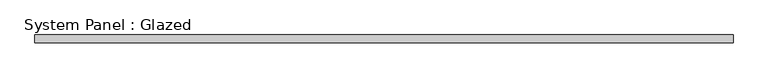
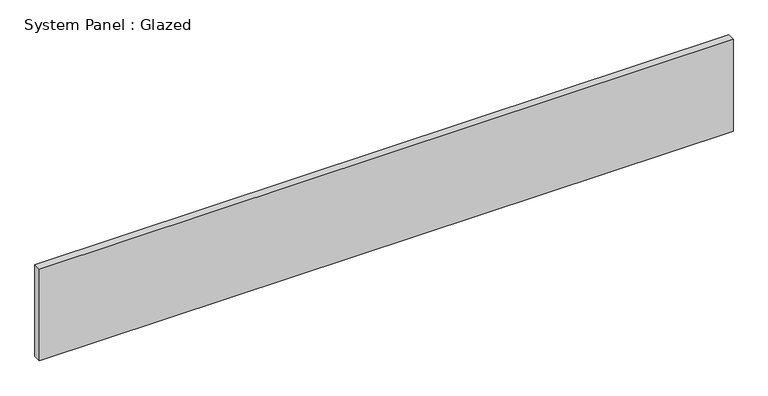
"""IFC4 building model written with IfcOpenShell, lengths in millimetres: plate geometry, System Panel : Glazed."""

from ifc_helpers import new_model, si_unit, origin, origin_with_axes, place, context, project, spatial, polyline, outline, extrude, source, transform, mapped, element, save


def system_panel_glazed_8a542666(model_context):
    return source(origin(), model_context, "Body", "SweptSolid", [
        extrude(outline(polyline([(1500.0, -17.0), (-1500.0, -17.0), (-1500.0, 17.0), (1500.0, 17.0), (1500.0, -17.0)])), origin_with_axes(), (0.0, 0.0, 1.0), 418.8399439),
    ])


if __name__ == "__main__":
    model = new_model("IFC4")
    model_context = context("Model", 3, world=origin())
    ifc_project = project(units=[si_unit("LENGTHUNIT", "METRE", prefix="MILLI")], contexts=[model_context])
    site = spatial("IfcSite", under=ifc_project)
    building = spatial("IfcBuilding", under=site)
    placement = place(None, origin())
    system_panel_glazed_shape = system_panel_glazed_8a542666(model_context)
    element("IfcPlate", 1, ObjectType="System Panel : Glazed", at=placement, inside=building, context=model_context, shape_type="MappedRepresentation", body=[
        mapped(system_panel_glazed_shape, transform((0.0, 0.0, 0.0), x_axis=(1.0, 0.0, 0.0), y_axis=(0.0, 1.0, 0.0), z_axis=(0.0, 0.0, 1.0))),
    ])
    save(model, "model.ifc")
